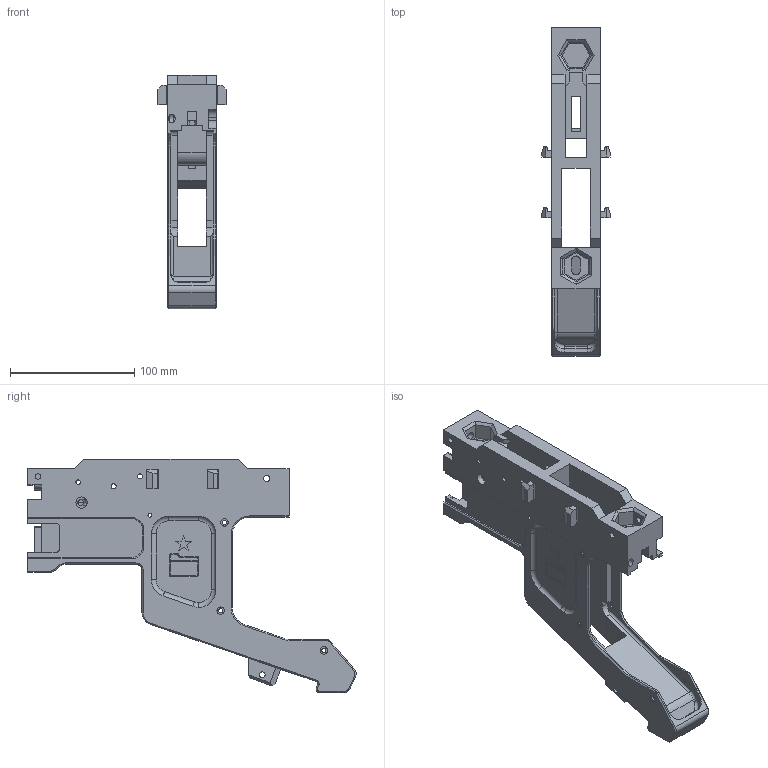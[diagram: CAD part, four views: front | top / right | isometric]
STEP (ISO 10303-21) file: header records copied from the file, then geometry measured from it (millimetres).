
FILE_DESCRIPTION(('HOOPS Exchange Step'),'2;1');
FILE_NAME('/private/var/mobile/Containers/Data/Application/4B1A7BF2-BF60-4167-B720-BE744F57E5F5/tmp/export/temp_export','2026-08-15T11:41:19-05:00',('mobile'),('Shapr3D Limited'),'HOOPS Exchange 2026.3','Shapr3D','Authorized');
FILE_SCHEMA( ('AP242_MANAGED_MODEL_BASED_3D_ENGINEERING_MIM_LF {1 0 10303 442 1 1 4}') );
Length unit declared in the file: millimetre
Products named in the file (3): Lower reciever; Lower.step; root
Assembly tree (2 placements, depth 3):
  root
    Lower.step
      Lower reciever
Bounding box: 54.73 x 264.27 x 187.79 mm (x, y, z)
Volume: 444495.6 mm3; surface area: 129912.3 mm2
Topology: 1 solids, 1 shells, 632 faces, 1741 edges, 1124 vertices
Faces by surface type: plane 403, cylinder 125, bspline 58, cone 32, torus 13, extrusion 1
Full cylindrical faces by diameter (mm): 3 x6, 3.5 x6, 3.606 x1, 4 x6, 4.5 x3, 4.85 x2, 6 x6, 6.2 x2, 6.7 x1, 9 x1, 9.525 x1, 20 x1
Entity records: 25711 total; most frequent: CARTESIAN_POINT 9708, ORIENTED_EDGE 3482, DIRECTION 3052, EDGE_CURVE 1741, VECTOR 1246, LINE 1245, VERTEX_POINT 1124, AXIS2_PLACEMENT_3D 903
